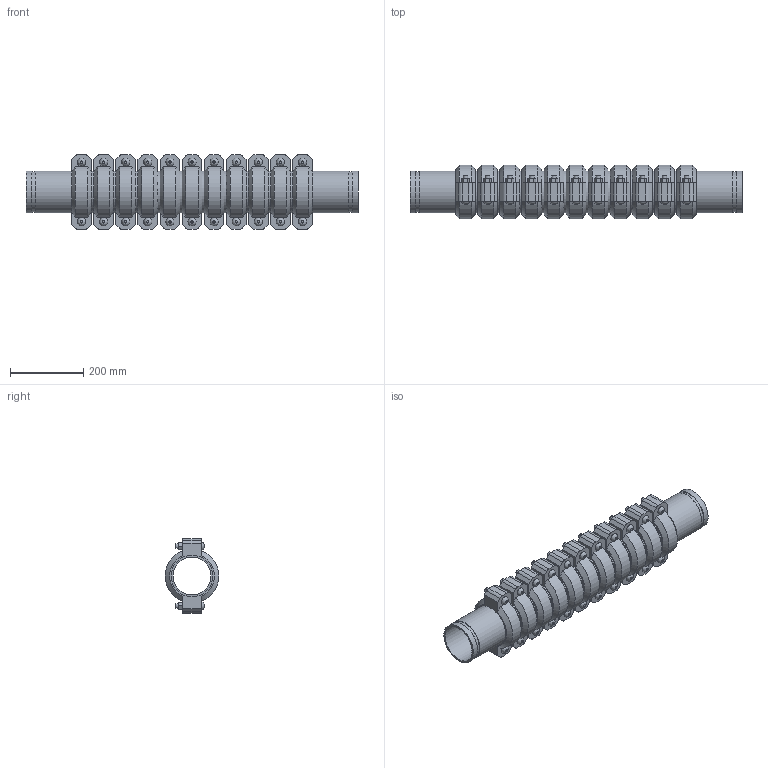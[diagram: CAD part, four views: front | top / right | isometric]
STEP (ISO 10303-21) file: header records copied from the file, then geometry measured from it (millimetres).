
FILE_DESCRIPTION(/* description */ ('VIC EXPANSION JOINT 11 COUPLINGS COMPRESSED STYLE 155 (OGS)','CAx-IF Rec.Pracs.---Representation and Presentation of Product Manufacturing Information (PMI)---4.0---2014-10-13'),/* implementation_level */ '2;1');
FILE_NAME(/* name */ 'C:\Users\kkamble\AppData\Roaming\Autodesk\ApplicationPlugins\Victaulic.Temp\A956\Victaulic_IPS_Expansion Joint_Compressed_11 Couplings_Style 155 (OGS)_4 (100).stp',/* time_stamp */ '2021-06-27T00:19:04+02:00',/* author */ ('kkamble'),/* organization */ ('Victaulic'),/* preprocessor_version */ 'ST-DEVELOPER v17.2',/* originating_system */ 'Autodesk Inventor 2019',/* authorisation */ '');
FILE_SCHEMA (('AP242_MANAGED_MODEL_BASED_3D_ENGINEERING_MIM_LF { 1 0 10303 442 1 1 4 }'));
Length unit declared in the file: inch
Products named in the file (4): 155-04.0; Nipple-04.0; Nipple-04.0_1; 075_11_Coup-04.0
Assembly tree (23 placements, depth 2):
  155-04.0
    Nipple-04.0  x2
    Nipple-04.0_1  x10
    075_11_Coup-04.0  x11
Bounding box: 908.56 x 147.32 x 203.96 mm (x, y, z)
Volume: 6710131.6 mm3; surface area: 1553169.7 mm2
Topology: 23 solids, 45 shells, 771 faces, 1823 edges, 1278 vertices
Faces by surface type: plane 468, cylinder 237, cone 44, bspline 22
Full cylindrical faces by diameter (mm): 12.7 x44, 14.605 x22, 103.988 x12, 107.95 x11, 110.084 x24, 114.3 x58
Entity records: 2906 total; most frequent: CARTESIAN_POINT 507, DIRECTION 489, ORIENTED_EDGE 386, AXIS2_PLACEMENT_3D 198, EDGE_CURVE 193, VERTEX_POINT 138, EDGE_LOOP 107, LINE 93
